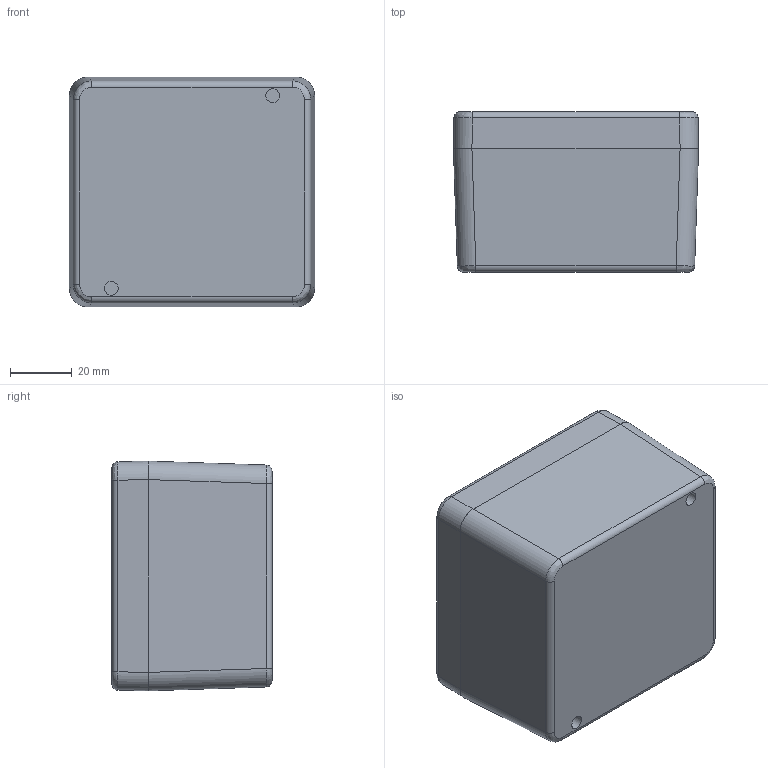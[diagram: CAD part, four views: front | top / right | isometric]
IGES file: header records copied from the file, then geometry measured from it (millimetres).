
Global section: file name: 1590Z100.iam; native system: Autodesk Inventor 2015; preprocessor: unknown; author: MBeerman; date: 20150420.084512; units: millimetre
Bounding box: 79.6 x 52 x 74.6 mm (x, y, z)
Volume: 114762.4 mm3; surface area: 67269.6 mm2
Topology: 8 solids, 8 shells, 515 faces, 1356 edges, 892 vertices
Faces by surface type: plane 247, revolution 150, cylinder 50, cone 30, bspline 22, sphere 16
Full cylindrical faces by diameter (mm): 3.43 x4, 3.88 x4, 5.971 x2
